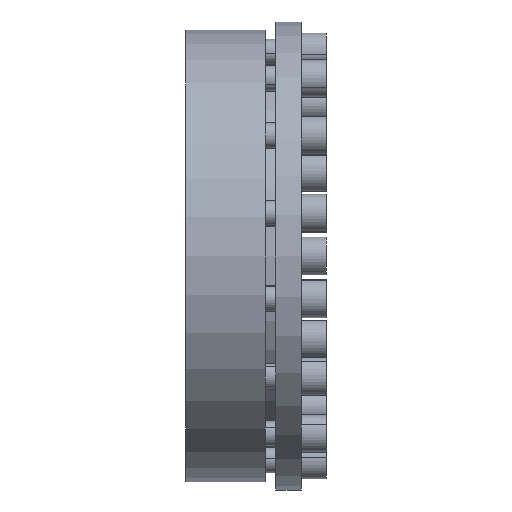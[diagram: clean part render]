
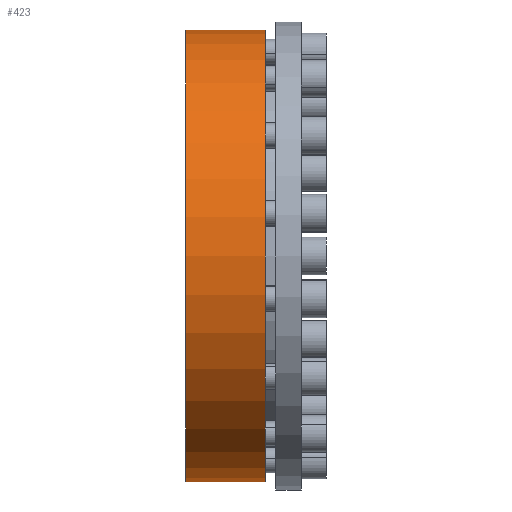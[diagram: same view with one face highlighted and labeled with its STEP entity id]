
A CAD part, front view. The second image highlights one B-rep face of the part: STEP entity #423.
In plain terms, the highlighted cylindrical face has radius 125 mm (diameter 250 mm), a partial arc.
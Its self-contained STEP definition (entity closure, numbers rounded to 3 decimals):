
#44 = VERTEX_POINT ( 'NONE', #2511 ) ;
#45 = VERTEX_POINT ( 'NONE', #2510 ) ;
#47 = EDGE_CURVE ( 'NONE', #45, #48, #2509, .T. ) ;
#48 = VERTEX_POINT ( 'NONE', #2505 ) ;
#51 = VERTEX_POINT ( 'NONE', #2499 ) ;
#53 = EDGE_CURVE ( 'NONE', #44, #51, #2561, .T. ) ;
#199 = EDGE_CURVE ( 'NONE', #45, #44, #2810, .T. ) ;
#399 = ORIENTED_EDGE ( 'NONE', *, *, #47, .F. ) ;
#400 = ORIENTED_EDGE ( 'NONE', *, *, #199, .T. ) ;
#401 = ORIENTED_EDGE ( 'NONE', *, *, #53, .T. ) ;
#402 = ORIENTED_EDGE ( 'NONE', *, *, #419, .F. ) ;
#419 = EDGE_CURVE ( 'NONE', #48, #51, #3146, .T. ) ;
#423 = ADVANCED_FACE ( 'NONE', ( #3141 ), #3140, .T. ) ;
#424 = EDGE_LOOP ( 'NONE', ( #399, #400, #401, #402 ) ) ;
#2499 = CARTESIAN_POINT ( 'NONE',  ( -20., 0., -125. ) ) ;
#2505 = CARTESIAN_POINT ( 'NONE',  ( -20., 0., 125. ) ) ;
#2506 = DIRECTION ( 'NONE',  ( 1., 0., 0. ) ) ;
#2507 = VECTOR ( 'NONE', #2506, 1000. ) ;
#2508 = CARTESIAN_POINT ( 'NONE',  ( 0., 0., 125. ) ) ;
#2509 = LINE ( 'NONE', #2508, #2507 ) ;
#2510 = CARTESIAN_POINT ( 'NONE',  ( -64., 0., 125. ) ) ;
#2511 = CARTESIAN_POINT ( 'NONE',  ( -64., 0., -125. ) ) ;
#2558 = DIRECTION ( 'NONE',  ( 1., 0., 0. ) ) ;
#2559 = VECTOR ( 'NONE', #2558, 1000. ) ;
#2560 = CARTESIAN_POINT ( 'NONE',  ( 0., 0., -125. ) ) ;
#2561 = LINE ( 'NONE', #2560, #2559 ) ;
#2806 = DIRECTION ( 'NONE',  ( 0., 0., -1. ) ) ;
#2807 = DIRECTION ( 'NONE',  ( 1., 0., 0. ) ) ;
#2808 = CARTESIAN_POINT ( 'NONE',  ( -64., 0., 0. ) ) ;
#2809 = AXIS2_PLACEMENT_3D ( 'NONE', #2808, #2807, #2806 ) ;
#2810 = CIRCLE ( 'NONE', #2809, 125. ) ;
#3135 = DIRECTION ( 'NONE',  ( 0., 0., -1. ) ) ;
#3136 = DIRECTION ( 'NONE',  ( 1., 0., 0. ) ) ;
#3137 = CARTESIAN_POINT ( 'NONE',  ( 0., 0., 0. ) ) ;
#3138 = AXIS2_PLACEMENT_3D ( 'NONE', #3137, #3136, #3135 ) ;
#3140 = CYLINDRICAL_SURFACE ( 'NONE', #3138, 125. ) ;
#3141 = FACE_OUTER_BOUND ( 'NONE', #424, .T. ) ;
#3142 = DIRECTION ( 'NONE',  ( 0., 0., -1. ) ) ;
#3143 = DIRECTION ( 'NONE',  ( 1., 0., 0. ) ) ;
#3144 = CARTESIAN_POINT ( 'NONE',  ( -20., 0., 0. ) ) ;
#3145 = AXIS2_PLACEMENT_3D ( 'NONE', #3144, #3143, #3142 ) ;
#3146 = CIRCLE ( 'NONE', #3145, 125. ) ;
